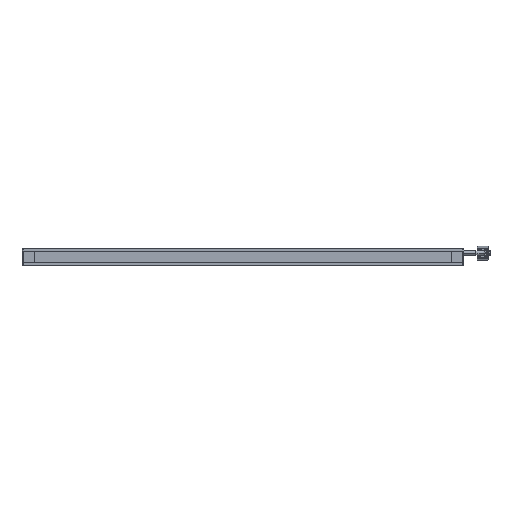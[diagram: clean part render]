
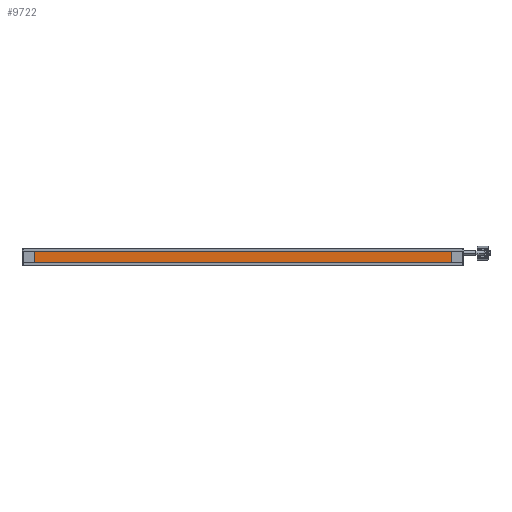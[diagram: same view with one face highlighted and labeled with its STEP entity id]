
A CAD part, front view. The second image highlights one B-rep face of the part: STEP entity #9722.
In plain terms, the highlighted planar face has unit normal (0, -1, 0).
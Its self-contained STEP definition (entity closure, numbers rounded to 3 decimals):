
#124 = DIRECTION ( 'NONE',  ( 1., 0., 0. ) ) ;
#356 = FACE_OUTER_BOUND ( 'NONE', #3196, .T. ) ;
#403 = AXIS2_PLACEMENT_3D ( 'NONE', #10241, #5423, #9376 ) ;
#742 = CARTESIAN_POINT ( 'NONE',  ( -155.7, -215., 0. ) ) ;
#1019 = DIRECTION ( 'NONE',  ( 0., 0., 1. ) ) ;
#1193 = VECTOR ( 'NONE', #1019, 1000. ) ;
#1194 = LINE ( 'NONE', #9748, #7392 ) ;
#1366 = PLANE ( 'NONE',  #403 ) ;
#1412 = CARTESIAN_POINT ( 'NONE',  ( 155.7, -215., -8.5 ) ) ;
#1768 = EDGE_CURVE ( 'NONE', #5612, #5346, #1194, .T. ) ;
#1935 = DIRECTION ( 'NONE',  ( 1., 0., 0. ) ) ;
#1952 = ORIENTED_EDGE ( 'NONE', *, *, #1975, .T. ) ;
#1975 = EDGE_CURVE ( 'NONE', #4243, #4494, #10033, .T. ) ;
#2243 = CARTESIAN_POINT ( 'NONE',  ( 155.7, -215., 0. ) ) ;
#2306 = VECTOR ( 'NONE', #9700, 1000. ) ;
#2326 = EDGE_CURVE ( 'NONE', #4494, #5346, #8157, .T. ) ;
#3196 = EDGE_LOOP ( 'NONE', ( #5520, #5710, #6621, #1952 ) ) ;
#4243 = VERTEX_POINT ( 'NONE', #6650 ) ;
#4494 = VERTEX_POINT ( 'NONE', #1412 ) ;
#5346 = VERTEX_POINT ( 'NONE', #2243 ) ;
#5423 = DIRECTION ( 'NONE',  ( 0., 1., 0. ) ) ;
#5424 = EDGE_CURVE ( 'NONE', #4243, #5612, #5869, .T. ) ;
#5520 = ORIENTED_EDGE ( 'NONE', *, *, #2326, .T. ) ;
#5612 = VERTEX_POINT ( 'NONE', #6722 ) ;
#5710 = ORIENTED_EDGE ( 'NONE', *, *, #1768, .F. ) ;
#5869 = LINE ( 'NONE', #742, #2306 ) ;
#6621 = ORIENTED_EDGE ( 'NONE', *, *, #5424, .F. ) ;
#6650 = CARTESIAN_POINT ( 'NONE',  ( -155.7, -215., -8.5 ) ) ;
#6722 = CARTESIAN_POINT ( 'NONE',  ( -155.7, -215., 0. ) ) ;
#7392 = VECTOR ( 'NONE', #124, 1000. ) ;
#7741 = CARTESIAN_POINT ( 'NONE',  ( -155.7, -215., -8.5 ) ) ;
#7914 = VECTOR ( 'NONE', #1935, 1000. ) ;
#8157 = LINE ( 'NONE', #8270, #1193 ) ;
#8270 = CARTESIAN_POINT ( 'NONE',  ( 155.7, -215., 0. ) ) ;
#9376 = DIRECTION ( 'NONE',  ( 0., 0., -1. ) ) ;
#9700 = DIRECTION ( 'NONE',  ( 0., 0., 1. ) ) ;
#9722 = ADVANCED_FACE ( 'NONE', ( #356 ), #1366, .F. ) ;
#9748 = CARTESIAN_POINT ( 'NONE',  ( -155.7, -215., 0. ) ) ;
#10033 = LINE ( 'NONE', #7741, #7914 ) ;
#10241 = CARTESIAN_POINT ( 'NONE',  ( -155.7, -215., 0. ) ) ;
